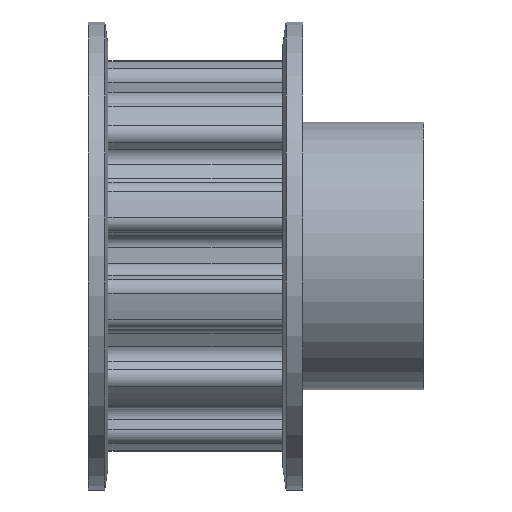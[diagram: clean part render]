
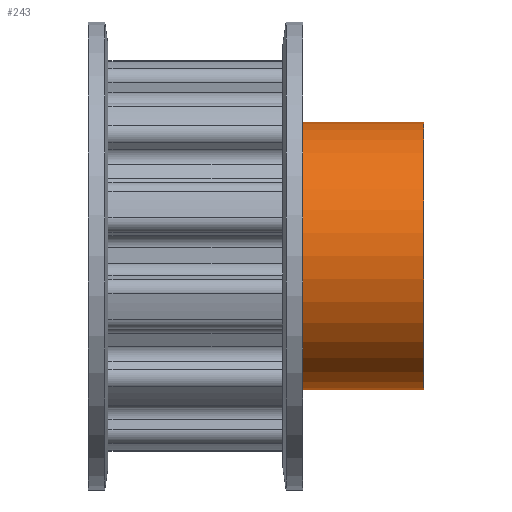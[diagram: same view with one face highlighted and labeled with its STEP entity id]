
A CAD part, top view. The second image highlights one B-rep face of the part: STEP entity #243.
In plain terms, the highlighted cylindrical face has radius 12 mm (diameter 24 mm), a partial arc.
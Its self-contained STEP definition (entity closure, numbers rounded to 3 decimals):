
#243 = ADVANCED_FACE( '', ( #589 ), #590, .T. );
#589 = FACE_OUTER_BOUND( '', #938, .T. );
#590 = CYLINDRICAL_SURFACE( '', #939, 12. );
#938 = EDGE_LOOP( '', ( #2551, #2552, #2553, #2554 ) );
#939 = AXIS2_PLACEMENT_3D( '', #2555, #2556, #2557 );
#2551 = ORIENTED_EDGE( '', *, *, #2618, .T. );
#2552 = ORIENTED_EDGE( '', *, *, #3053, .F. );
#2553 = ORIENTED_EDGE( '', *, *, #2620, .T. );
#2554 = ORIENTED_EDGE( '', *, *, #3197, .T. );
#2555 = CARTESIAN_POINT( '', ( 24.5, 0., 0. ) );
#2556 = DIRECTION( '', ( 1., 0., 0. ) );
#2557 = DIRECTION( '', ( 0., 1., 0. ) );
#2618 = EDGE_CURVE( '', #3198, #3199, #3200, .T. );
#2620 = EDGE_CURVE( '', #3203, #3201, #3204, .T. );
#3053 = EDGE_CURVE( '', #3203, #3199, #3979, .T. );
#3197 = EDGE_CURVE( '', #3201, #3198, #4145, .T. );
#3198 = VERTEX_POINT( '', #4146 );
#3199 = VERTEX_POINT( '', #4147 );
#3200 = LINE( '', #4148, #4149 );
#3201 = VERTEX_POINT( '', #4150 );
#3203 = VERTEX_POINT( '', #4152 );
#3204 = LINE( '', #4153, #4154 );
#3979 = CIRCLE( '', #5090, 12. );
#4145 = CIRCLE( '', #5377, 12. );
#4146 = CARTESIAN_POINT( '', ( 30., 12., 0. ) );
#4147 = CARTESIAN_POINT( '', ( 19., 12., 0. ) );
#4148 = CARTESIAN_POINT( '', ( 24.5, 12., 0. ) );
#4149 = VECTOR( '', #5378, 1. );
#4150 = CARTESIAN_POINT( '', ( 30., -12., 0. ) );
#4152 = CARTESIAN_POINT( '', ( 19., -12., 0. ) );
#4153 = CARTESIAN_POINT( '', ( 24.5, -12., 0. ) );
#4154 = VECTOR( '', #5382, 1. );
#5090 = AXIS2_PLACEMENT_3D( '', #6357, #6358, #6359 );
#5377 = AXIS2_PLACEMENT_3D( '', #6547, #6548, #6549 );
#5378 = DIRECTION( '', ( -1., 0., 0. ) );
#5382 = DIRECTION( '', ( 1., 0., 0. ) );
#6357 = CARTESIAN_POINT( '', ( 19., 0., 0. ) );
#6358 = DIRECTION( '', ( -1., 0., 0. ) );
#6359 = DIRECTION( '', ( 0., 1., 0. ) );
#6547 = CARTESIAN_POINT( '', ( 30., 0., 0. ) );
#6548 = DIRECTION( '', ( -1., 0., 0. ) );
#6549 = DIRECTION( '', ( 0., 1., 0. ) );
